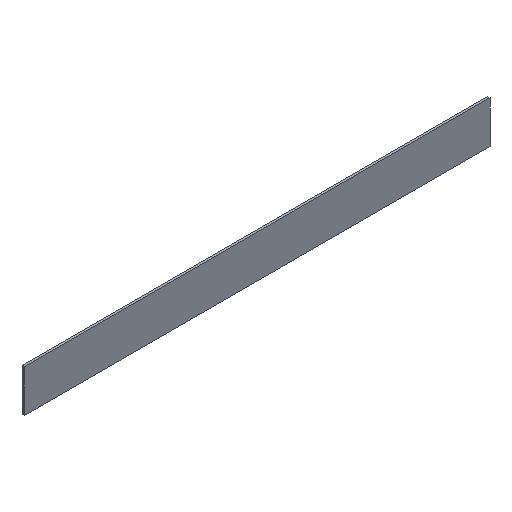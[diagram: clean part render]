
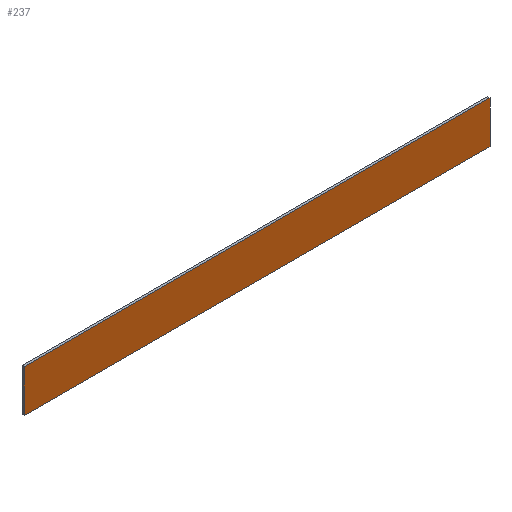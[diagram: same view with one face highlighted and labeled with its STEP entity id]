
A CAD part, isometric view. The second image highlights one B-rep face of the part: STEP entity #237.
In plain terms, the highlighted planar face has unit normal (0, -1, 0).
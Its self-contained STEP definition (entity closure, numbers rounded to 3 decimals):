
#21 = EDGE_CURVE('',#22,#24,#26,.T.);
#22 = VERTEX_POINT('',#23);
#23 = CARTESIAN_POINT('',(0.,0.,0.));
#24 = VERTEX_POINT('',#25);
#25 = CARTESIAN_POINT('',(0.,0.,45.));
#26 = SURFACE_CURVE('',#27,(#31,#43),.PCURVE_S1.);
#27 = LINE('',#28,#29);
#28 = CARTESIAN_POINT('',(0.,0.,0.));
#29 = VECTOR('',#30,1.);
#30 = DIRECTION('',(0.,0.,1.));
#31 = PCURVE('',#32,#37);
#32 = PLANE('',#33);
#33 = AXIS2_PLACEMENT_3D('',#34,#35,#36);
#34 = CARTESIAN_POINT('',(0.,0.,0.));
#35 = DIRECTION('',(1.,0.,-0.));
#36 = DIRECTION('',(0.,0.,1.));
#37 = DEFINITIONAL_REPRESENTATION('',(#38),#42);
#38 = LINE('',#39,#40);
#39 = CARTESIAN_POINT('',(0.,0.));
#40 = VECTOR('',#41,1.);
#41 = DIRECTION('',(1.,0.));
#42 = ( GEOMETRIC_REPRESENTATION_CONTEXT(2) 
PARAMETRIC_REPRESENTATION_CONTEXT() REPRESENTATION_CONTEXT('2D SPACE',''
  ) );
#43 = PCURVE('',#44,#49);
#44 = PLANE('',#45);
#45 = AXIS2_PLACEMENT_3D('',#46,#47,#48);
#46 = CARTESIAN_POINT('',(0.,0.,0.));
#47 = DIRECTION('',(-0.,1.,0.));
#48 = DIRECTION('',(0.,0.,1.));
#49 = DEFINITIONAL_REPRESENTATION('',(#50),#54);
#50 = LINE('',#51,#52);
#51 = CARTESIAN_POINT('',(0.,0.));
#52 = VECTOR('',#53,1.);
#53 = DIRECTION('',(1.,0.));
#54 = ( GEOMETRIC_REPRESENTATION_CONTEXT(2) 
PARAMETRIC_REPRESENTATION_CONTEXT() REPRESENTATION_CONTEXT('2D SPACE',''
  ) );
#72 = PLANE('',#73);
#73 = AXIS2_PLACEMENT_3D('',#74,#75,#76);
#74 = CARTESIAN_POINT('',(0.,0.,0.));
#75 = DIRECTION('',(0.,0.,1.));
#76 = DIRECTION('',(1.,0.,-0.));
#126 = PLANE('',#127);
#127 = AXIS2_PLACEMENT_3D('',#128,#129,#130);
#128 = CARTESIAN_POINT('',(0.,0.,45.));
#129 = DIRECTION('',(0.,0.,1.));
#130 = DIRECTION('',(1.,0.,-0.));
#141 = EDGE_CURVE('',#142,#144,#146,.T.);
#142 = VERTEX_POINT('',#143);
#143 = CARTESIAN_POINT('',(495.,0.,0.));
#144 = VERTEX_POINT('',#145);
#145 = CARTESIAN_POINT('',(495.,0.,45.));
#146 = SURFACE_CURVE('',#147,(#151,#163),.PCURVE_S1.);
#147 = LINE('',#148,#149);
#148 = CARTESIAN_POINT('',(495.,0.,0.));
#149 = VECTOR('',#150,1.);
#150 = DIRECTION('',(0.,0.,1.));
#151 = PCURVE('',#152,#157);
#152 = PLANE('',#153);
#153 = AXIS2_PLACEMENT_3D('',#154,#155,#156);
#154 = CARTESIAN_POINT('',(495.,0.,0.));
#155 = DIRECTION('',(1.,0.,-0.));
#156 = DIRECTION('',(0.,0.,1.));
#157 = DEFINITIONAL_REPRESENTATION('',(#158),#162);
#158 = LINE('',#159,#160);
#159 = CARTESIAN_POINT('',(0.,0.));
#160 = VECTOR('',#161,1.);
#161 = DIRECTION('',(1.,0.));
#162 = ( GEOMETRIC_REPRESENTATION_CONTEXT(2) 
PARAMETRIC_REPRESENTATION_CONTEXT() REPRESENTATION_CONTEXT('2D SPACE',''
  ) );
#163 = PCURVE('',#44,#164);
#164 = DEFINITIONAL_REPRESENTATION('',(#165),#169);
#165 = LINE('',#166,#167);
#166 = CARTESIAN_POINT('',(0.,495.));
#167 = VECTOR('',#168,1.);
#168 = DIRECTION('',(1.,0.));
#169 = ( GEOMETRIC_REPRESENTATION_CONTEXT(2) 
PARAMETRIC_REPRESENTATION_CONTEXT() REPRESENTATION_CONTEXT('2D SPACE',''
  ) );
#237 = ADVANCED_FACE('',(#238),#44,.F.);
#238 = FACE_BOUND('',#239,.F.);
#239 = EDGE_LOOP('',(#240,#261,#262,#283));
#240 = ORIENTED_EDGE('',*,*,#241,.F.);
#241 = EDGE_CURVE('',#22,#142,#242,.T.);
#242 = SURFACE_CURVE('',#243,(#247,#254),.PCURVE_S1.);
#243 = LINE('',#244,#245);
#244 = CARTESIAN_POINT('',(0.,0.,0.));
#245 = VECTOR('',#246,1.);
#246 = DIRECTION('',(1.,0.,-0.));
#247 = PCURVE('',#44,#248);
#248 = DEFINITIONAL_REPRESENTATION('',(#249),#253);
#249 = LINE('',#250,#251);
#250 = CARTESIAN_POINT('',(0.,0.));
#251 = VECTOR('',#252,1.);
#252 = DIRECTION('',(0.,1.));
#253 = ( GEOMETRIC_REPRESENTATION_CONTEXT(2) 
PARAMETRIC_REPRESENTATION_CONTEXT() REPRESENTATION_CONTEXT('2D SPACE',''
  ) );
#254 = PCURVE('',#72,#255);
#255 = DEFINITIONAL_REPRESENTATION('',(#256),#260);
#256 = LINE('',#257,#258);
#257 = CARTESIAN_POINT('',(0.,0.));
#258 = VECTOR('',#259,1.);
#259 = DIRECTION('',(1.,0.));
#260 = ( GEOMETRIC_REPRESENTATION_CONTEXT(2) 
PARAMETRIC_REPRESENTATION_CONTEXT() REPRESENTATION_CONTEXT('2D SPACE',''
  ) );
#261 = ORIENTED_EDGE('',*,*,#21,.T.);
#262 = ORIENTED_EDGE('',*,*,#263,.T.);
#263 = EDGE_CURVE('',#24,#144,#264,.T.);
#264 = SURFACE_CURVE('',#265,(#269,#276),.PCURVE_S1.);
#265 = LINE('',#266,#267);
#266 = CARTESIAN_POINT('',(0.,0.,45.));
#267 = VECTOR('',#268,1.);
#268 = DIRECTION('',(1.,0.,-0.));
#269 = PCURVE('',#44,#270);
#270 = DEFINITIONAL_REPRESENTATION('',(#271),#275);
#271 = LINE('',#272,#273);
#272 = CARTESIAN_POINT('',(45.,0.));
#273 = VECTOR('',#274,1.);
#274 = DIRECTION('',(0.,1.));
#275 = ( GEOMETRIC_REPRESENTATION_CONTEXT(2) 
PARAMETRIC_REPRESENTATION_CONTEXT() REPRESENTATION_CONTEXT('2D SPACE',''
  ) );
#276 = PCURVE('',#126,#277);
#277 = DEFINITIONAL_REPRESENTATION('',(#278),#282);
#278 = LINE('',#279,#280);
#279 = CARTESIAN_POINT('',(0.,0.));
#280 = VECTOR('',#281,1.);
#281 = DIRECTION('',(1.,0.));
#282 = ( GEOMETRIC_REPRESENTATION_CONTEXT(2) 
PARAMETRIC_REPRESENTATION_CONTEXT() REPRESENTATION_CONTEXT('2D SPACE',''
  ) );
#283 = ORIENTED_EDGE('',*,*,#141,.F.);
